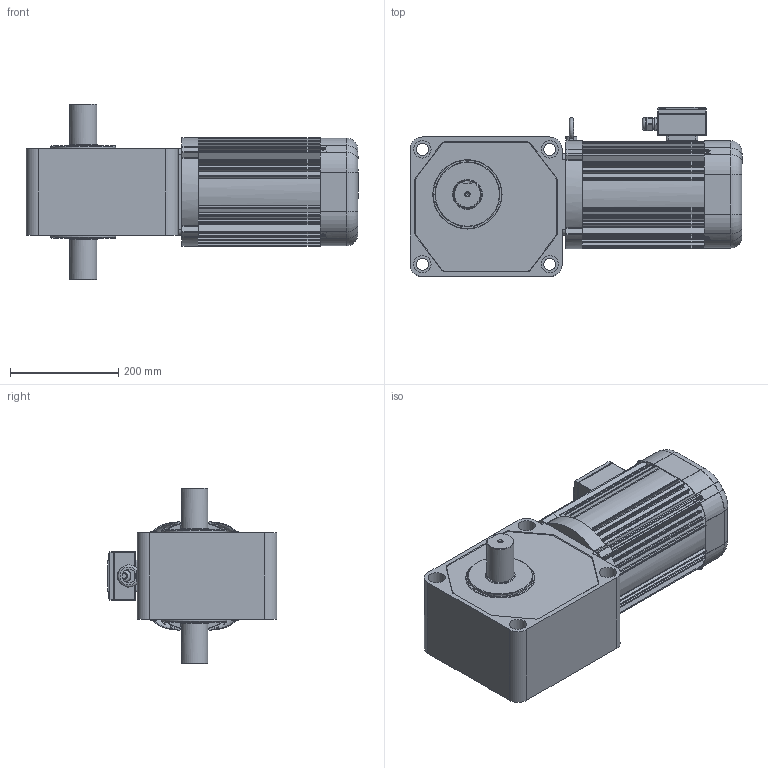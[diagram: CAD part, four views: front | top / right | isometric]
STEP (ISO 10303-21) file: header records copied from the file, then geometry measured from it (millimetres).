
FILE_DESCRIPTION(/* description */ (''),/* implementation_level */ '2;1');
FILE_NAME(/* name */ 'Z:\동력 3D 파일\PCS50B_2.2kW_3D.stp',/* time_stamp */ '2021-11-09T16:56:41+09:00',/* author */ ('jaebok'),/* organization */ (''),/* preprocessor_version */ 'ST-DEVELOPER v18.1',/* originating_system */ 'Autodesk Inventor 2022',/* authorisation */ '');
FILE_SCHEMA (('AUTOMOTIVE_DESIGN { 1 0 10303 214 3 1 1 }'));
Length unit declared in the file: millimetre
Products named in the file (1): 부품77
Bounding box: 613 x 313 x 324 mm (x, y, z)
Volume: 14393388 mm3; surface area: 1115747.7 mm2
Topology: 1 solids, 25 shells, 1414 faces, 3767 edges, 2435 vertices
Faces by surface type: plane 705, cylinder 558, cone 61, torus 60, bspline 26, sphere 4
Full cylindrical faces by diameter (mm): 3.25 x1, 3.5 x4, 3.6 x4, 4 x21, 5 x13, 6 x5, 6.647 x6, 7 x8, 8 x1, 8.8 x1, 9 x4, 10 x3, 12.5 x1, 15 x1, 20 x2, 21 x1, 22 x4, 23.6 x1, 25 x2, 31 x1, 32 x4, 36 x1, 50 x3, 62 x1, 120 x2, 176 x1, 180 x2, 181 x1, 185.4 x2, 188 x4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
Entity records: 47414 total; most frequent: CARTESIAN_POINT 10159, DIRECTION 7808, ORIENTED_EDGE 7504, EDGE_CURVE 3752, AXIS2_PLACEMENT_3D 2916, VERTEX_POINT 2435, LINE 1976, VECTOR 1976
